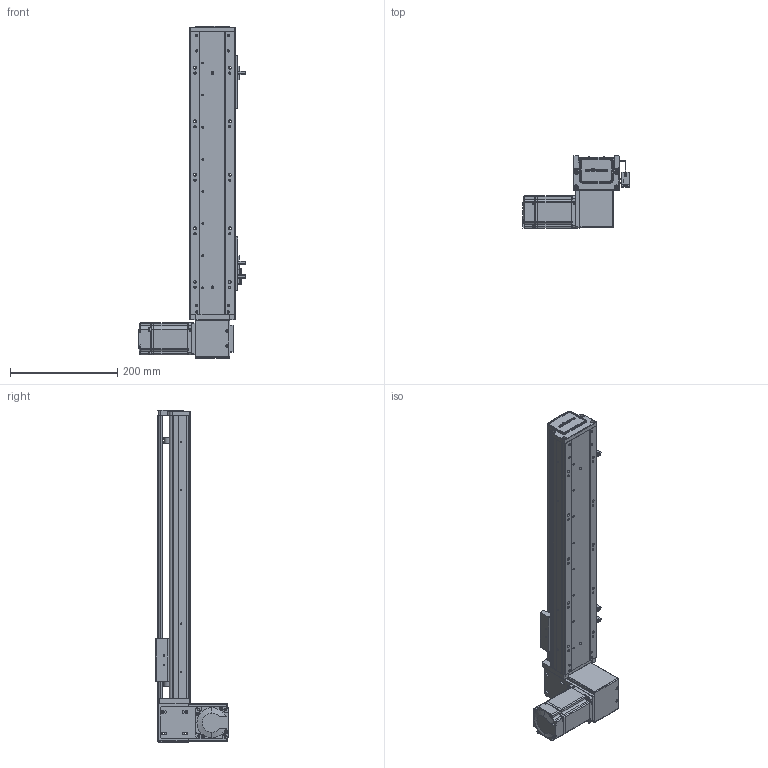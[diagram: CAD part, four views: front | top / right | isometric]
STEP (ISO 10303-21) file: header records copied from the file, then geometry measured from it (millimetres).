
FILE_DESCRIPTION (( 'STEP AP203' ), '1' );
FILE_NAME ('RY80-T-300-DL.SLDASM_350.step', '2021-03-01T01:37:37', ( '盈信电脑' ), ( '东莞市道滘镇水果街19号' ), 'SwSTEP 2.0', 'SolidWorks 2012', '' );
FILE_SCHEMA (( 'CONFIG_CONTROL_DESIGN' ));
Products named in the file (19): RY80-T肮祭謫狟殏俋欶; 1; 滅袉蝶18-10; RY80-T翋肮祭謫裔啣; RY80-T-300-DL.SLDASM_350; RY100-T粣創揤踡裔; RY80-T-上下折同步轮盖板; RY80-T-M4蹟翐3; RY80-T萇儂假蚾啣; RY80-T肮祭湍揤輸2; RY80-T肮祭湍揤輸1; RY80俋离覜茼え; RY80-T-翋肮祭謫釱; 672嫖萇羲壽假蚾釱; 覜茼ん672; RY80-T肮祭謫臏賑輸; RY80-T-300-DL倰第奻裔啣_350; RY80-T綴裔啣; RY80-T-300-DL倰第菁釱_350
Assembly tree (24 placements, depth 2):
  RY80-T-300-DL.SLDASM_350
    RY80-T-300-DL倰第菁釱_350
    RY80-T肮祭謫臏賑輸
    RY80-T-300-DL倰第奻裔啣_350
    RY80-T綴裔啣
    672嫖萇羲壽假蚾釱  x2
    覜茼ん672  x3
    RY80俋离覜茼え
    RY80-T-翋肮祭謫釱
    RY80-T肮祭湍揤輸1
    RY80-T肮祭湍揤輸2
    RY80-T萇儂假蚾啣
    RY80-T翋肮祭謫裔啣  x2
    滅袉蝶18-10  x2
    1
    RY80-T肮祭謫狟殏俋欶
    RY80-T-M4蹟翐3  x2
    RY80-T-上下折同步轮盖板
    RY100-T粣創揤踡裔
Bounding box: 198.7 x 134.5 x 620 mm (x, y, z)
Volume: 1344422 mm3; surface area: 544808.7 mm2
Topology: 24 solids, 24 shells, 2402 faces, 6592 edges, 4277 vertices
Faces by surface type: plane 1325, cylinder 874, cone 147, bspline 56
Entity records: 74427 total; most frequent: CARTESIAN_POINT 17506, ORIENTED_EDGE 11628, DIRECTION 11020, EDGE_CURVE 5814, VERTEX_POINT 3818, VECTOR 3676, LINE 3676, AXIS2_PLACEMENT_3D 3672
